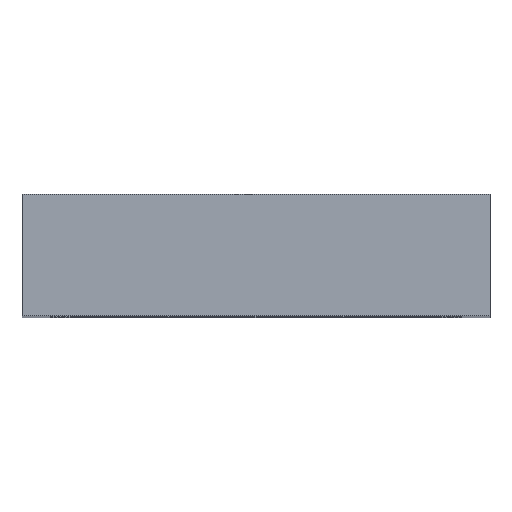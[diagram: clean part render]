
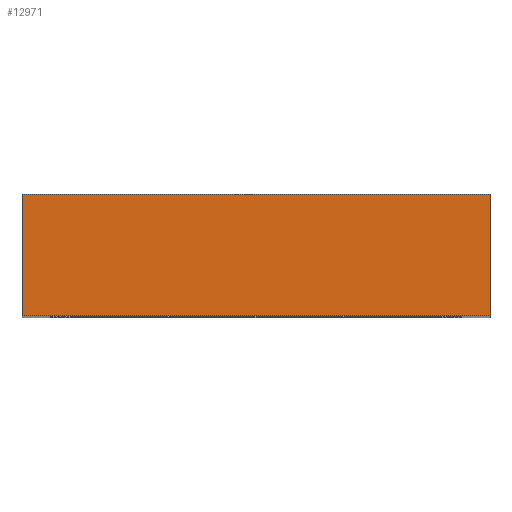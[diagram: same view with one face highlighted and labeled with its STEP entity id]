
A CAD part, top view. The second image highlights one B-rep face of the part: STEP entity #12971.
In plain terms, the highlighted planar face has unit normal (0, 0, 1).
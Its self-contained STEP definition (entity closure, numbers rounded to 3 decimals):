
#117 = EDGE_CURVE ( 'NONE', #11548, #29920, #11118, .T. ) ;
#344 = AXIS2_PLACEMENT_3D ( 'NONE', #11017, #15059, #31072 ) ;
#2088 = CARTESIAN_POINT ( 'NONE',  ( -99.922, 0.201, 204.038 ) ) ;
#3013 = LINE ( 'NONE', #29666, #39869 ) ;
#4398 = PLANE ( 'NONE',  #344 ) ;
#5068 = CARTESIAN_POINT ( 'NONE',  ( -99.922, 52.052, 204.038 ) ) ;
#5845 = DIRECTION ( 'NONE',  ( 0., -1., 0. ) ) ;
#5902 = ORIENTED_EDGE ( 'NONE', *, *, #34106, .T. ) ;
#10068 = ORIENTED_EDGE ( 'NONE', *, *, #23100, .T. ) ;
#10486 = VECTOR ( 'NONE', #26917, 1000. ) ;
#10697 = VECTOR ( 'NONE', #5845, 1000. ) ;
#10853 = VERTEX_POINT ( 'NONE', #2088 ) ;
#11017 = CARTESIAN_POINT ( 'NONE',  ( -99.922, 513.217, 204.038 ) ) ;
#11118 = LINE ( 'NONE', #33103, #10486 ) ;
#11548 = VERTEX_POINT ( 'NONE', #25432 ) ;
#12211 = LINE ( 'NONE', #28422, #14631 ) ;
#12971 = ADVANCED_FACE ( 'NONE', ( #17840 ), #4398, .T. ) ;
#13938 = EDGE_LOOP ( 'NONE', ( #32808, #10068, #5902, #23542 ) ) ;
#14631 = VECTOR ( 'NONE', #31398, 1000. ) ;
#15059 = DIRECTION ( 'NONE',  ( 0., 0., 1. ) ) ;
#15479 = VERTEX_POINT ( 'NONE', #5068 ) ;
#16859 = DIRECTION ( 'NONE',  ( -1., 0., 0. ) ) ;
#17345 = CARTESIAN_POINT ( 'NONE',  ( 99.922, 0.201, 204.038 ) ) ;
#17585 = EDGE_CURVE ( 'NONE', #29920, #10853, #12211, .T. ) ;
#17840 = FACE_OUTER_BOUND ( 'NONE', #13938, .T. ) ;
#23100 = EDGE_CURVE ( 'NONE', #11548, #15479, #3013, .T. ) ;
#23542 = ORIENTED_EDGE ( 'NONE', *, *, #17585, .F. ) ;
#25432 = CARTESIAN_POINT ( 'NONE',  ( 99.922, 52.052, 204.038 ) ) ;
#25886 = LINE ( 'NONE', #35078, #10697 ) ;
#26917 = DIRECTION ( 'NONE',  ( 0., -1., 0. ) ) ;
#28422 = CARTESIAN_POINT ( 'NONE',  ( -99.922, 0.201, 204.038 ) ) ;
#29666 = CARTESIAN_POINT ( 'NONE',  ( -99.922, 52.052, 204.038 ) ) ;
#29920 = VERTEX_POINT ( 'NONE', #17345 ) ;
#31072 = DIRECTION ( 'NONE',  ( 0., -1., 0. ) ) ;
#31398 = DIRECTION ( 'NONE',  ( -1., 0., 0. ) ) ;
#32808 = ORIENTED_EDGE ( 'NONE', *, *, #117, .F. ) ;
#33103 = CARTESIAN_POINT ( 'NONE',  ( 99.922, 513.217, 204.038 ) ) ;
#34106 = EDGE_CURVE ( 'NONE', #15479, #10853, #25886, .T. ) ;
#35078 = CARTESIAN_POINT ( 'NONE',  ( -99.922, 513.217, 204.038 ) ) ;
#39869 = VECTOR ( 'NONE', #16859, 1000. ) ;
